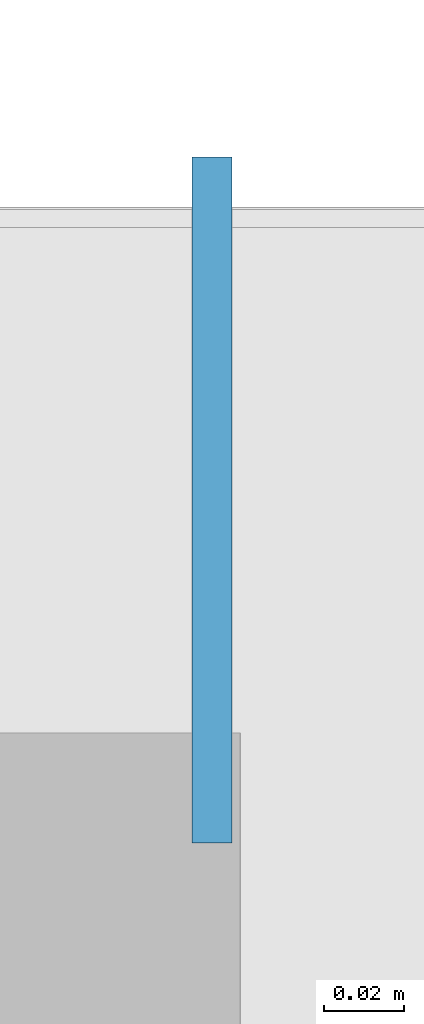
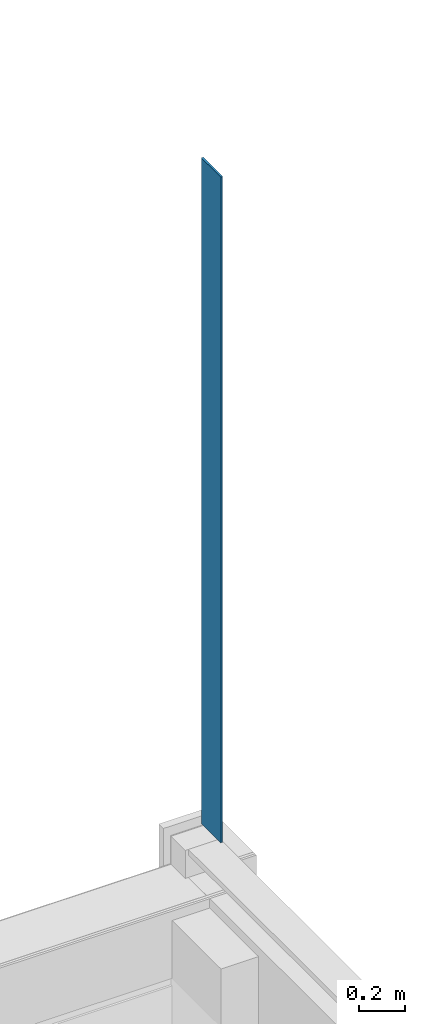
# One storey, part 29 of 94: 1 wall.
"""IFC2X3 building model written with IfcOpenShell, lengths in millimetres."""

from ifc_helpers import new_model, entity, si_unit, converted_unit, derived_unit, money_unit, direction, frame, origin_with_axes, place, context, subcontext, project, spatial, faceted_brep, material, type_object, element, save


model = new_model("IFC2X3")

# Units and contexts
model_context = context("Model", 3, precision=0.01, world=origin_with_axes(), true_north=direction((0.0, 1.0)))
body_context = subcontext(model_context, "Body", "Model", "MODEL_VIEW")
ifc_project = project(units=[si_unit("LENGTHUNIT", "METRE", prefix="MILLI"), si_unit("AREAUNIT", "SQUARE_METRE"), si_unit("VOLUMEUNIT", "CUBIC_METRE"), converted_unit("PLANEANGLEUNIT", "DEGREE", entity("IfcPlaneAngleMeasure", 0.0174532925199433), si_unit("PLANEANGLEUNIT", "RADIAN"), dimensions=[0, 0, 0, 0, 0, 0, 0]), money_unit("EUR"), converted_unit("TIMEUNIT", "Year", entity("IfcTimeMeasure", 31557600.0), si_unit("TIMEUNIT", "SECOND"), dimensions=[0, 0, 1, 0, 0, 0, 0]), si_unit("MASSUNIT", "GRAM", prefix="KILO"), si_unit("THERMODYNAMICTEMPERATUREUNIT", "DEGREE_CELSIUS"), si_unit("LUMINOUSINTENSITYUNIT", "LUMEN"), si_unit("ENERGYUNIT", "JOULE", prefix="MEGA"), derived_unit("THERMALCONDUCTANCEUNIT", [(si_unit("POWERUNIT", "WATT"), 1), (si_unit("LENGTHUNIT", "METRE"), -1), (si_unit("THERMODYNAMICTEMPERATUREUNIT", "KELVIN"), -1)]), derived_unit("SPECIFICHEATCAPACITYUNIT", [(si_unit("ENERGYUNIT", "JOULE"), 1), (si_unit("MASSUNIT", "GRAM", prefix="KILO"), -1), (si_unit("THERMODYNAMICTEMPERATUREUNIT", "KELVIN"), -1)]), derived_unit("MASSDENSITYUNIT", [(si_unit("MASSUNIT", "GRAM", prefix="KILO"), 1), (si_unit("VOLUMEUNIT", "CUBIC_METRE"), -1)])], contexts=[model_context])

# Site, building, storey
site_placement = place(None, origin_with_axes())
site = spatial("IfcSite", under=ifc_project, at=site_placement, Name="<site naam>", CompositionType="ELEMENT")
building_placement = place(site_placement, origin_with_axes())
building = spatial("IfcBuilding", under=site, at=building_placement, Name="<Naam gebouw>", CompositionType="ELEMENT")
storey_placement = place(building_placement, frame((0.0, 0.0, 4250.0), z_axis=(0.0, 0.0, 1.0), x_axis=(1.0, 0.0, 0.0)))
storey = spatial("IfcBuildingStorey", under=building, at=storey_placement, Name="01 1e verdieping", CompositionType="ELEMENT", Elevation=4250.0)

# Wall
ifc_material = material(Name="metaal - Aluminium RAL8000")
wall_type = type_object("IfcWallType", Name="metaal - Aluminium RAL8000 10", PredefinedType="NOTDEFINED")
wall_placement = place(storey_placement, frame((48163.00000000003, 20208.5421662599, 4250.0), z_axis=(0.0, 0.0, 1.0), x_axis=(0.0, -1.0, 0.0)))
element("IfcWall", 1, at=wall_placement, inside=storey, type_object=wall_type, material=ifc_material, Name="41_Binnenwand_metaal", context=body_context, shape_type="Brep", body=[
    faceted_brep([(0.0, 9.99999999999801, 0.0), (170.9999999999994, 9.99999999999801, 0.0), (170.9999999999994, 0.0, 0.0), (0.0, 0.0, 0.0), (0.0, 9.99999999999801, 3560.000000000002), (170.9999999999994, 9.99999999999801, 3560.000000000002), (170.9999999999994, 0.0, 3560.000000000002), (0.0, 0.0, 3560.000000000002)], [[[0, 1, 2, 3]], [[4, 5, 1, 0]], [[2, 1, 5, 6]], [[3, 2, 6, 7]], [[4, 0, 3, 7]], [[7, 6, 5, 4]]]),
])

save(model, "model.ifc")
